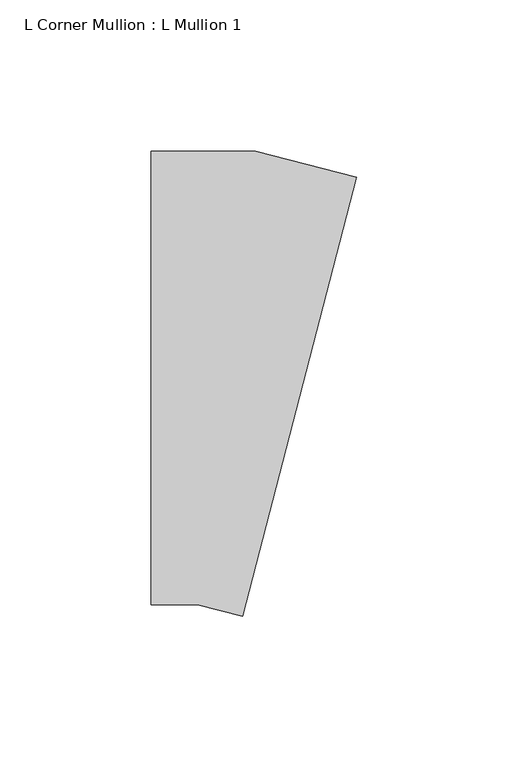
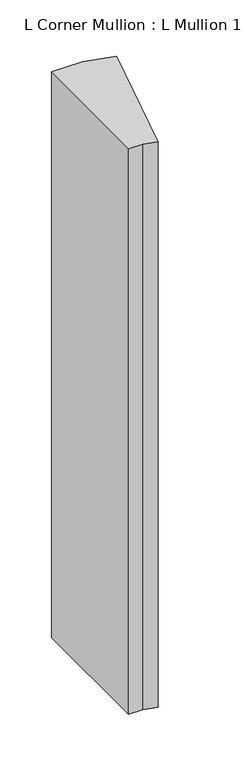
"""IFC4 building model written with IfcOpenShell, lengths in millimetres: member geometry, L Corner Mullion : L Mullion 1."""

from ifc_helpers import new_model, si_unit, frame, origin, place, context, project, spatial, polyline, outline, extrude, source, transform, mapped, element, save


def l_corner_mullion_l_mullion_1_3977e5be(model_context):
    return source(origin(), model_context, "Body", "SweptSolid", [
        extrude(outline(polyline([(5.3376934, -78.876543), (-9.5834814, -75.0), (-25.0, -75.0), (-25.0, 75.0), (9.5834814, 75.0), (43.0557711, 66.3038504), (5.3376934, -78.876543)])), frame((0.0, 0.0, -669.2834562), z_axis=(0.0, 0.0, 1.0), x_axis=(1.0, 0.0, 0.0)), (0.0, 0.0, 1.0), 669.2834562),
    ])


if __name__ == "__main__":
    model = new_model("IFC4")
    model_context = context("Model", 3, world=origin())
    ifc_project = project(units=[si_unit("LENGTHUNIT", "METRE", prefix="MILLI")], contexts=[model_context])
    site = spatial("IfcSite", under=ifc_project)
    building = spatial("IfcBuilding", under=site)
    placement = place(None, origin())
    l_corner_mullion_l_mullion_1_shape = l_corner_mullion_l_mullion_1_3977e5be(model_context)
    element("IfcMember", 1, ObjectType="L Corner Mullion : L Mullion 1", at=placement, inside=building, context=model_context, shape_type="MappedRepresentation", body=[
        mapped(l_corner_mullion_l_mullion_1_shape, transform((0.0, 0.0, 0.0), x_axis=(1.0, 0.0, 0.0), y_axis=(0.0, 1.0, 0.0), z_axis=(0.0, 0.0, 1.0))),
    ])
    save(model, "model.ifc")
